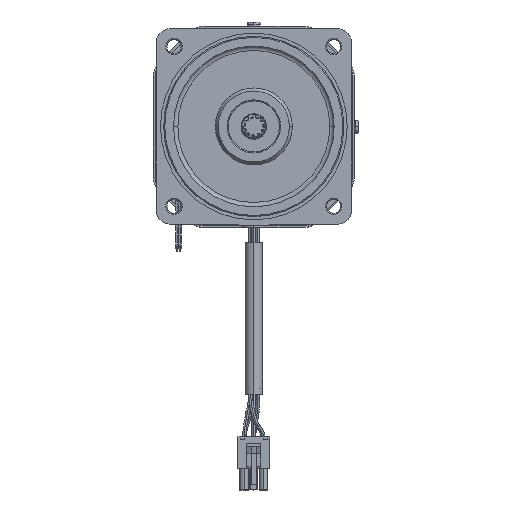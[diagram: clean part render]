
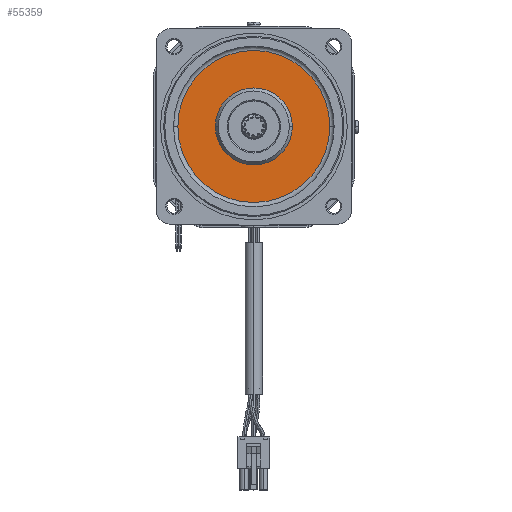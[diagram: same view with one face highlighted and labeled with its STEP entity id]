
A CAD part, top view. The second image highlights one B-rep face of the part: STEP entity #55359.
In plain terms, the highlighted planar face has unit normal (0, 0, 1).
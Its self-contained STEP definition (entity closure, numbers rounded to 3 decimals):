
#8580 = CARTESIAN_POINT ( 'NONE',  ( -17.75, 0., 0. ) ) ;
#8608 = DIRECTION ( 'NONE',  ( -1., 0., 0. ) ) ;
#8609 = DIRECTION ( 'NONE',  ( 0., 0., 1. ) ) ;
#8610 = CARTESIAN_POINT ( 'NONE',  ( 0., 0., 0. ) ) ;
#8611 = AXIS2_PLACEMENT_3D ( 'NONE', #8610, #8609, #8608 ) ;
#8612 = CIRCLE ( 'NONE', #8611, 17.75 ) ;
#8670 = CARTESIAN_POINT ( 'NONE',  ( 17.75, 0., 0. ) ) ;
#8693 = CARTESIAN_POINT ( 'NONE',  ( -35., 0., 0. ) ) ;
#8694 = DIRECTION ( 'NONE',  ( -1., 0., 0. ) ) ;
#8695 = DIRECTION ( 'NONE',  ( 0., 0., 1. ) ) ;
#8696 = CARTESIAN_POINT ( 'NONE',  ( 0., 0., 0. ) ) ;
#8697 = AXIS2_PLACEMENT_3D ( 'NONE', #8696, #8695, #8694 ) ;
#8698 = CIRCLE ( 'NONE', #8697, 35. ) ;
#8699 = CARTESIAN_POINT ( 'NONE',  ( 35., 0., 0. ) ) ;
#30000 = AXIS2_PLACEMENT_3D ( 'NONE', #30449, #30447, #30446 ) ;
#30002 = CIRCLE ( 'NONE', #30000, 17.75 ) ;
#30446 = DIRECTION ( 'NONE',  ( -1., 0., 0. ) ) ;
#30447 = DIRECTION ( 'NONE',  ( 0., 0., 1. ) ) ;
#30449 = CARTESIAN_POINT ( 'NONE',  ( 0., 0., 0. ) ) ;
#31223 = FACE_BOUND ( 'NONE', #55347, .T. ) ;
#31224 = FACE_OUTER_BOUND ( 'NONE', #55353, .T. ) ;
#31225 = DIRECTION ( 'NONE',  ( -1., 0., 0. ) ) ;
#31226 = DIRECTION ( 'NONE',  ( 0., 0., 1. ) ) ;
#31227 = CARTESIAN_POINT ( 'NONE',  ( 0., 0., 0. ) ) ;
#31228 = AXIS2_PLACEMENT_3D ( 'NONE', #31227, #31226, #31225 ) ;
#31229 = CIRCLE ( 'NONE', #31228, 35. ) ;
#31258 = DIRECTION ( 'NONE',  ( -1., 0., 0. ) ) ;
#31259 = DIRECTION ( 'NONE',  ( 0., 0., -1. ) ) ;
#31260 = CARTESIAN_POINT ( 'NONE',  ( -38.5, 38.5, 0. ) ) ;
#31261 = AXIS2_PLACEMENT_3D ( 'NONE', #31260, #31259, #31258 ) ;
#31264 = PLANE ( 'NONE',  #31261 ) ;
#44139 = VERTEX_POINT ( 'NONE', #8580 ) ;
#44147 = EDGE_CURVE ( 'NONE', #44254, #44139, #8612, .T. ) ;
#44254 = VERTEX_POINT ( 'NONE', #8670 ) ;
#44281 = VERTEX_POINT ( 'NONE', #8699 ) ;
#44285 = EDGE_CURVE ( 'NONE', #44287, #44281, #8698, .T. ) ;
#44287 = VERTEX_POINT ( 'NONE', #8693 ) ;
#55174 = ORIENTED_EDGE ( 'NONE', *, *, #55309, .F. ) ;
#55309 = EDGE_CURVE ( 'NONE', #44139, #44254, #30002, .T. ) ;
#55310 = ORIENTED_EDGE ( 'NONE', *, *, #44147, .F. ) ;
#55340 = EDGE_CURVE ( 'NONE', #44281, #44287, #31229, .T. ) ;
#55347 = EDGE_LOOP ( 'NONE', ( #55174, #55310 ) ) ;
#55349 = ORIENTED_EDGE ( 'NONE', *, *, #55340, .T. ) ;
#55353 = EDGE_LOOP ( 'NONE', ( #55369, #55349 ) ) ;
#55359 = ADVANCED_FACE ( 'NONE', ( #31224, #31223 ), #31264, .F. ) ;
#55369 = ORIENTED_EDGE ( 'NONE', *, *, #44285, .T. ) ;
